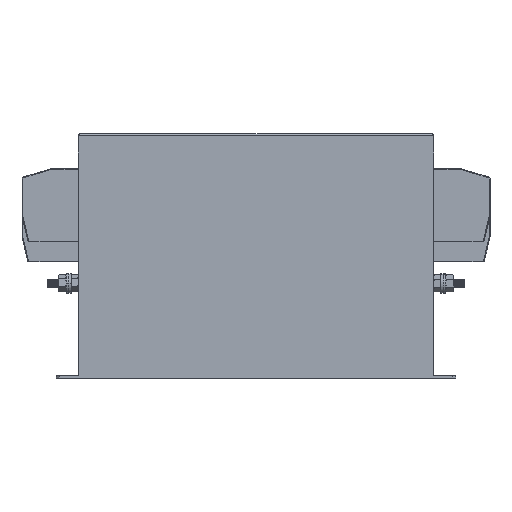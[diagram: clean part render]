
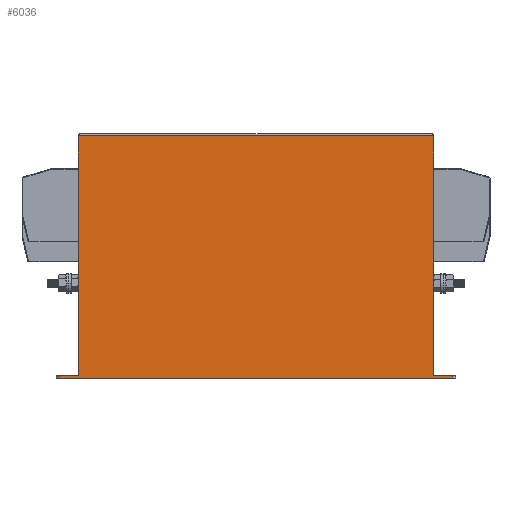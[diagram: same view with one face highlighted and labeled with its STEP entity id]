
A CAD part, top view. The second image highlights one B-rep face of the part: STEP entity #6036.
In plain terms, the highlighted planar face has unit normal (0, 0, 1).
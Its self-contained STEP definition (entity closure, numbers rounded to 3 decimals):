
#21 = DIRECTION ( 'NONE',  ( -1., 0., 0. ) ) ;
#131 = EDGE_CURVE ( 'NONE', #5975, #6024, #2561, .T. ) ;
#362 = ORIENTED_EDGE ( 'NONE', *, *, #2538, .T. ) ;
#397 = CARTESIAN_POINT ( 'NONE',  ( 268., 1.5, 0. ) ) ;
#494 = VECTOR ( 'NONE', #2576, 1000. ) ;
#631 = DIRECTION ( 'NONE',  ( 0., -1., 0. ) ) ;
#651 = CARTESIAN_POINT ( 'NONE',  ( 2., 1.5, 0. ) ) ;
#700 = VECTOR ( 'NONE', #21, 1000. ) ;
#926 = CARTESIAN_POINT ( 'NONE',  ( 2., 0., 0. ) ) ;
#1037 = EDGE_LOOP ( 'NONE', ( #2258, #7913, #7291, #4306, #5029, #362, #2199, #4328 ) ) ;
#1094 = CARTESIAN_POINT ( 'NONE',  ( 15., 163.5, 0. ) ) ;
#1266 = DIRECTION ( 'NONE',  ( 1., 0., 0. ) ) ;
#1303 = CARTESIAN_POINT ( 'NONE',  ( 15., 1.5, 0. ) ) ;
#1527 = DIRECTION ( 'NONE',  ( 0., 1., 0. ) ) ;
#1781 = CARTESIAN_POINT ( 'NONE',  ( 255., 163.5, 0. ) ) ;
#1801 = EDGE_CURVE ( 'NONE', #2276, #3590, #5541, .T. ) ;
#2142 = DIRECTION ( 'NONE',  ( -1., 0., 0. ) ) ;
#2199 = ORIENTED_EDGE ( 'NONE', *, *, #6378, .F. ) ;
#2258 = ORIENTED_EDGE ( 'NONE', *, *, #3215, .F. ) ;
#2276 = VERTEX_POINT ( 'NONE', #6953 ) ;
#2390 = LINE ( 'NONE', #651, #7849 ) ;
#2418 = CARTESIAN_POINT ( 'NONE',  ( 268., 1.5, 0. ) ) ;
#2497 = VECTOR ( 'NONE', #5943, 1000. ) ;
#2509 = CARTESIAN_POINT ( 'NONE',  ( 15., 0., 0. ) ) ;
#2523 = CARTESIAN_POINT ( 'NONE',  ( 255., 165., 0. ) ) ;
#2538 = EDGE_CURVE ( 'NONE', #2276, #7785, #3022, .T. ) ;
#2561 = LINE ( 'NONE', #2523, #4722 ) ;
#2576 = DIRECTION ( 'NONE',  ( 1., 0., 0. ) ) ;
#2623 = CARTESIAN_POINT ( 'NONE',  ( 15., 165., 0. ) ) ;
#2652 = VERTEX_POINT ( 'NONE', #4695 ) ;
#2659 = LINE ( 'NONE', #3351, #4196 ) ;
#2866 = EDGE_CURVE ( 'NONE', #2652, #6364, #6113, .T. ) ;
#2916 = LINE ( 'NONE', #1094, #2497 ) ;
#3022 = LINE ( 'NONE', #2418, #6400 ) ;
#3026 = CARTESIAN_POINT ( 'NONE',  ( 15., 163.5, 0. ) ) ;
#3215 = EDGE_CURVE ( 'NONE', #6292, #5975, #2916, .T. ) ;
#3351 = CARTESIAN_POINT ( 'NONE',  ( 15., 165., 0. ) ) ;
#3590 = VERTEX_POINT ( 'NONE', #926 ) ;
#3594 = AXIS2_PLACEMENT_3D ( 'NONE', #2623, #5777, #2142 ) ;
#3835 = CARTESIAN_POINT ( 'NONE',  ( 15., 1.5, 0. ) ) ;
#3844 = FACE_OUTER_BOUND ( 'NONE', #1037, .T. ) ;
#4196 = VECTOR ( 'NONE', #1527, 1000. ) ;
#4306 = ORIENTED_EDGE ( 'NONE', *, *, #5941, .T. ) ;
#4328 = ORIENTED_EDGE ( 'NONE', *, *, #131, .F. ) ;
#4438 = CARTESIAN_POINT ( 'NONE',  ( 255., 1.5, 0. ) ) ;
#4510 = CARTESIAN_POINT ( 'NONE',  ( 15., 1.5, 0. ) ) ;
#4548 = LINE ( 'NONE', #4510, #494 ) ;
#4695 = CARTESIAN_POINT ( 'NONE',  ( 2., 1.5, 0. ) ) ;
#4722 = VECTOR ( 'NONE', #631, 1000. ) ;
#4873 = DIRECTION ( 'NONE',  ( 0., 1., 0. ) ) ;
#5029 = ORIENTED_EDGE ( 'NONE', *, *, #1801, .F. ) ;
#5171 = PLANE ( 'NONE',  #3594 ) ;
#5541 = LINE ( 'NONE', #2509, #700 ) ;
#5777 = DIRECTION ( 'NONE',  ( 0., 0., -1. ) ) ;
#5941 = EDGE_CURVE ( 'NONE', #2652, #3590, #2390, .T. ) ;
#5943 = DIRECTION ( 'NONE',  ( 1., 0., 0. ) ) ;
#5975 = VERTEX_POINT ( 'NONE', #1781 ) ;
#6024 = VERTEX_POINT ( 'NONE', #4438 ) ;
#6036 = ADVANCED_FACE ( 'NONE', ( #3844 ), #5171, .F. ) ;
#6113 = LINE ( 'NONE', #1303, #6239 ) ;
#6239 = VECTOR ( 'NONE', #1266, 1000. ) ;
#6292 = VERTEX_POINT ( 'NONE', #3026 ) ;
#6364 = VERTEX_POINT ( 'NONE', #3835 ) ;
#6378 = EDGE_CURVE ( 'NONE', #6024, #7785, #4548, .T. ) ;
#6400 = VECTOR ( 'NONE', #4873, 1000. ) ;
#6713 = DIRECTION ( 'NONE',  ( 0., -1., 0. ) ) ;
#6953 = CARTESIAN_POINT ( 'NONE',  ( 268., 0., 0. ) ) ;
#7291 = ORIENTED_EDGE ( 'NONE', *, *, #2866, .F. ) ;
#7645 = EDGE_CURVE ( 'NONE', #6364, #6292, #2659, .T. ) ;
#7785 = VERTEX_POINT ( 'NONE', #397 ) ;
#7849 = VECTOR ( 'NONE', #6713, 1000. ) ;
#7913 = ORIENTED_EDGE ( 'NONE', *, *, #7645, .F. ) ;
